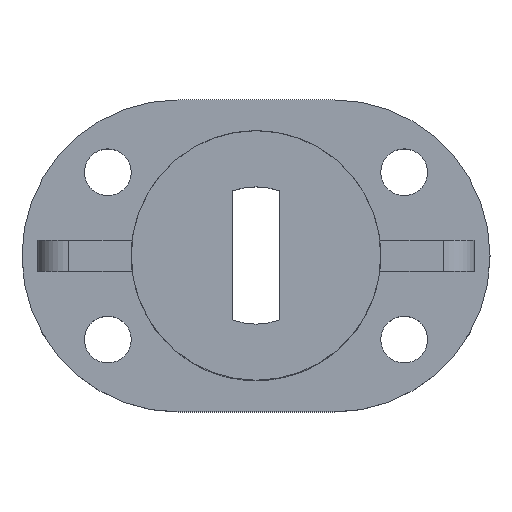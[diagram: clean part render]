
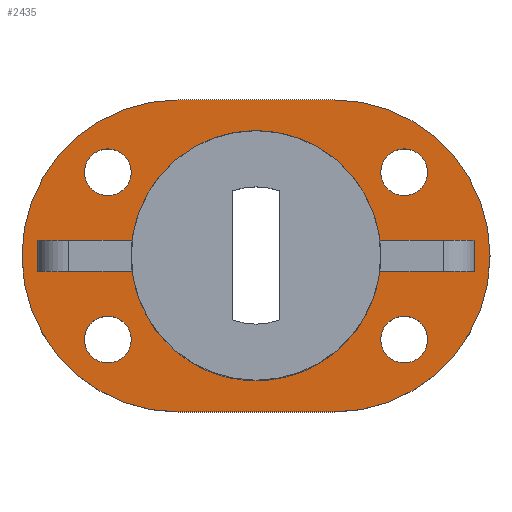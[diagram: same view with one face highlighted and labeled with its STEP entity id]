
A CAD part, top view. The second image highlights one B-rep face of the part: STEP entity #2435.
In plain terms, the highlighted planar face has unit normal (0, 0, 1).
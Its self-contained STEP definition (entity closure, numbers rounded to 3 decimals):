
#59=CARTESIAN_POINT('',(-39.686,-5.,0.));
#60=VERTEX_POINT('',#59);
#67=CARTESIAN_POINT('',(39.686,-5.,0.));
#68=VERTEX_POINT('',#67);
#69=CARTESIAN_POINT('',(0.,0.,0.));
#70=DIRECTION('',(0.,0.,1.));
#71=DIRECTION('',(-1.,0.,0.));
#72=AXIS2_PLACEMENT_3D('',#69,#70,#71);
#73=CIRCLE('',#72,40.);
#74=EDGE_CURVE('',#60,#68,#73,.T.);
#93=CARTESIAN_POINT('',(39.686,5.,0.));
#94=VERTEX_POINT('',#93);
#101=CARTESIAN_POINT('',(-39.686,5.,0.));
#102=VERTEX_POINT('',#101);
#103=CARTESIAN_POINT('',(0.,0.,0.));
#104=DIRECTION('',(0.,0.,1.));
#105=DIRECTION('',(-1.,0.,0.));
#106=AXIS2_PLACEMENT_3D('',#103,#104,#105);
#107=CIRCLE('',#106,40.);
#108=EDGE_CURVE('',#94,#102,#107,.T.);
#1959=CARTESIAN_POINT('',(-75.,-0.,0.));
#1960=VERTEX_POINT('',#1959);
#1961=CARTESIAN_POINT('',(-25.,-50.,0.));
#1962=VERTEX_POINT('',#1961);
#1963=CARTESIAN_POINT('',(-25.,-0.,0.));
#1964=DIRECTION('',(0.,0.,1.));
#1965=DIRECTION('',(-1.,0.,0.));
#1966=AXIS2_PLACEMENT_3D('',#1963,#1964,#1965);
#1967=CIRCLE('',#1966,50.);
#1968=EDGE_CURVE('',#1960,#1962,#1967,.T.);
#1970=CARTESIAN_POINT('',(-25.,50.,0.));
#1971=VERTEX_POINT('',#1970);
#1972=CARTESIAN_POINT('',(-25.,0.,0.));
#1973=DIRECTION('',(0.,0.,1.));
#1974=DIRECTION('',(-1.,0.,0.));
#1975=AXIS2_PLACEMENT_3D('',#1972,#1973,#1974);
#1976=CIRCLE('',#1975,50.);
#1977=EDGE_CURVE('',#1971,#1960,#1976,.T.);
#2019=CARTESIAN_POINT('',(25.,-50.,0.));
#2020=VERTEX_POINT('',#2019);
#2021=CARTESIAN_POINT('',(-25.,-50.,0.));
#2022=DIRECTION('',(1.,0.,0.));
#2023=VECTOR('',#2022,50.);
#2024=LINE('',#2021,#2023);
#2025=EDGE_CURVE('',#1962,#2020,#2024,.T.);
#2050=CARTESIAN_POINT('',(75.,0.,0.));
#2051=VERTEX_POINT('',#2050);
#2069=CARTESIAN_POINT('',(25.,50.,0.));
#2070=VERTEX_POINT('',#2069);
#2077=CARTESIAN_POINT('',(25.,0.,0.));
#2078=DIRECTION('',(0.,0.,1.));
#2079=DIRECTION('',(-1.,0.,0.));
#2080=AXIS2_PLACEMENT_3D('',#2077,#2078,#2079);
#2081=CIRCLE('',#2080,50.);
#2082=EDGE_CURVE('',#2051,#2070,#2081,.T.);
#2092=CARTESIAN_POINT('',(25.,50.,0.));
#2093=DIRECTION('',(-1.,0.,0.));
#2094=VECTOR('',#2093,50.);
#2095=LINE('',#2092,#2094);
#2096=EDGE_CURVE('',#2070,#1971,#2095,.T.);
#2114=CARTESIAN_POINT('',(-39.998,26.812,0.));
#2115=VERTEX_POINT('',#2114);
#2124=CARTESIAN_POINT('',(-54.998,26.812,0.));
#2125=VERTEX_POINT('',#2124);
#2126=CARTESIAN_POINT('',(-47.498,26.812,0.));
#2127=DIRECTION('',(0.,0.,1.));
#2128=DIRECTION('',(-1.,0.,0.));
#2129=AXIS2_PLACEMENT_3D('',#2126,#2127,#2128);
#2130=CIRCLE('',#2129,7.5);
#2131=EDGE_CURVE('',#2115,#2125,#2130,.T.);
#2133=CARTESIAN_POINT('',(-47.498,26.812,0.));
#2134=DIRECTION('',(0.,0.,1.));
#2135=DIRECTION('',(-1.,0.,0.));
#2136=AXIS2_PLACEMENT_3D('',#2133,#2134,#2135);
#2137=CIRCLE('',#2136,7.5);
#2138=EDGE_CURVE('',#2125,#2115,#2137,.T.);
#2165=CARTESIAN_POINT('',(54.998,26.812,0.));
#2166=VERTEX_POINT('',#2165);
#2175=CARTESIAN_POINT('',(39.998,26.812,0.));
#2176=VERTEX_POINT('',#2175);
#2177=CARTESIAN_POINT('',(47.498,26.812,0.));
#2178=DIRECTION('',(0.,0.,1.));
#2179=DIRECTION('',(-1.,0.,0.));
#2180=AXIS2_PLACEMENT_3D('',#2177,#2178,#2179);
#2181=CIRCLE('',#2180,7.5);
#2182=EDGE_CURVE('',#2166,#2176,#2181,.T.);
#2184=CARTESIAN_POINT('',(47.498,26.812,0.));
#2185=DIRECTION('',(0.,0.,1.));
#2186=DIRECTION('',(-1.,0.,0.));
#2187=AXIS2_PLACEMENT_3D('',#2184,#2185,#2186);
#2188=CIRCLE('',#2187,7.5);
#2189=EDGE_CURVE('',#2176,#2166,#2188,.T.);
#2216=CARTESIAN_POINT('',(54.998,-26.812,0.));
#2217=VERTEX_POINT('',#2216);
#2226=CARTESIAN_POINT('',(39.998,-26.812,0.));
#2227=VERTEX_POINT('',#2226);
#2228=CARTESIAN_POINT('',(47.498,-26.812,0.));
#2229=DIRECTION('',(0.,0.,1.));
#2230=DIRECTION('',(-1.,0.,0.));
#2231=AXIS2_PLACEMENT_3D('',#2228,#2229,#2230);
#2232=CIRCLE('',#2231,7.5);
#2233=EDGE_CURVE('',#2217,#2227,#2232,.T.);
#2235=CARTESIAN_POINT('',(47.498,-26.812,0.));
#2236=DIRECTION('',(0.,0.,1.));
#2237=DIRECTION('',(-1.,0.,0.));
#2238=AXIS2_PLACEMENT_3D('',#2235,#2236,#2237);
#2239=CIRCLE('',#2238,7.5);
#2240=EDGE_CURVE('',#2227,#2217,#2239,.T.);
#2267=CARTESIAN_POINT('',(-39.998,-26.812,0.));
#2268=VERTEX_POINT('',#2267);
#2277=CARTESIAN_POINT('',(-54.998,-26.812,0.));
#2278=VERTEX_POINT('',#2277);
#2279=CARTESIAN_POINT('',(-47.498,-26.812,0.));
#2280=DIRECTION('',(0.,0.,1.));
#2281=DIRECTION('',(-1.,0.,0.));
#2282=AXIS2_PLACEMENT_3D('',#2279,#2280,#2281);
#2283=CIRCLE('',#2282,7.5);
#2284=EDGE_CURVE('',#2268,#2278,#2283,.T.);
#2286=CARTESIAN_POINT('',(-47.498,-26.812,0.));
#2287=DIRECTION('',(0.,0.,1.));
#2288=DIRECTION('',(-1.,0.,0.));
#2289=AXIS2_PLACEMENT_3D('',#2286,#2287,#2288);
#2290=CIRCLE('',#2289,7.5);
#2291=EDGE_CURVE('',#2278,#2268,#2290,.T.);
#2352=CARTESIAN_POINT('',(0.,0.,0.));
#2353=DIRECTION('',(0.,0.,1.));
#2354=DIRECTION('',(-1.,0.,0.));
#2355=AXIS2_PLACEMENT_3D('',#2352,#2353,#2354);
#2356=PLANE('',#2355);
#2357=CARTESIAN_POINT('',(70.,-5.,0.));
#2358=VERTEX_POINT('',#2357);
#2359=CARTESIAN_POINT('',(39.686,-5.,0.));
#2360=DIRECTION('',(1.,0.,-0.));
#2361=VECTOR('',#2360,30.314);
#2362=LINE('',#2359,#2361);
#2363=EDGE_CURVE('',#68,#2358,#2362,.T.);
#2364=ORIENTED_EDGE('',*,*,#2363,.F.);
#2365=ORIENTED_EDGE('',*,*,#74,.F.);
#2366=CARTESIAN_POINT('',(-70.,-5.,0.));
#2367=VERTEX_POINT('',#2366);
#2368=CARTESIAN_POINT('',(-70.,-5.,0.));
#2369=DIRECTION('',(1.,0.,-0.));
#2370=VECTOR('',#2369,30.314);
#2371=LINE('',#2368,#2370);
#2372=EDGE_CURVE('',#2367,#60,#2371,.T.);
#2373=ORIENTED_EDGE('',*,*,#2372,.F.);
#2374=CARTESIAN_POINT('',(-70.,5.,0.));
#2375=VERTEX_POINT('',#2374);
#2376=CARTESIAN_POINT('',(-70.,5.,0.));
#2377=DIRECTION('',(0.,-1.,0.));
#2378=VECTOR('',#2377,10.);
#2379=LINE('',#2376,#2378);
#2380=EDGE_CURVE('',#2375,#2367,#2379,.T.);
#2381=ORIENTED_EDGE('',*,*,#2380,.F.);
#2382=CARTESIAN_POINT('',(-70.,5.,0.));
#2383=DIRECTION('',(1.,0.,-0.));
#2384=VECTOR('',#2383,30.314);
#2385=LINE('',#2382,#2384);
#2386=EDGE_CURVE('',#2375,#102,#2385,.T.);
#2387=ORIENTED_EDGE('',*,*,#2386,.T.);
#2388=ORIENTED_EDGE('',*,*,#108,.F.);
#2389=CARTESIAN_POINT('',(70.,5.,0.));
#2390=VERTEX_POINT('',#2389);
#2391=CARTESIAN_POINT('',(39.686,5.,0.));
#2392=DIRECTION('',(1.,0.,-0.));
#2393=VECTOR('',#2392,30.314);
#2394=LINE('',#2391,#2393);
#2395=EDGE_CURVE('',#94,#2390,#2394,.T.);
#2396=ORIENTED_EDGE('',*,*,#2395,.T.);
#2397=CARTESIAN_POINT('',(70.,5.,0.));
#2398=DIRECTION('',(0.,-1.,0.));
#2399=VECTOR('',#2398,10.);
#2400=LINE('',#2397,#2399);
#2401=EDGE_CURVE('',#2390,#2358,#2400,.T.);
#2402=ORIENTED_EDGE('',*,*,#2401,.T.);
#2403=EDGE_LOOP('',(#2364,#2365,#2373,#2381,#2387,#2388,#2396,#2402));
#2404=FACE_BOUND('',#2403,.T.);
#2405=ORIENTED_EDGE('',*,*,#1968,.T.);
#2406=ORIENTED_EDGE('',*,*,#2025,.T.);
#2407=CARTESIAN_POINT('',(25.,0.,0.));
#2408=DIRECTION('',(0.,0.,1.));
#2409=DIRECTION('',(-1.,0.,0.));
#2410=AXIS2_PLACEMENT_3D('',#2407,#2408,#2409);
#2411=CIRCLE('',#2410,50.);
#2412=EDGE_CURVE('',#2020,#2051,#2411,.T.);
#2413=ORIENTED_EDGE('',*,*,#2412,.T.);
#2414=ORIENTED_EDGE('',*,*,#2082,.T.);
#2415=ORIENTED_EDGE('',*,*,#2096,.T.);
#2416=ORIENTED_EDGE('',*,*,#1977,.T.);
#2417=EDGE_LOOP('',(#2405,#2406,#2413,#2414,#2415,#2416));
#2418=FACE_BOUND('',#2417,.T.);
#2419=ORIENTED_EDGE('',*,*,#2233,.F.);
#2420=ORIENTED_EDGE('',*,*,#2240,.F.);
#2421=EDGE_LOOP('',(#2419,#2420));
#2422=FACE_BOUND('',#2421,.T.);
#2423=ORIENTED_EDGE('',*,*,#2182,.F.);
#2424=ORIENTED_EDGE('',*,*,#2189,.F.);
#2425=EDGE_LOOP('',(#2423,#2424));
#2426=FACE_BOUND('',#2425,.T.);
#2427=ORIENTED_EDGE('',*,*,#2131,.F.);
#2428=ORIENTED_EDGE('',*,*,#2138,.F.);
#2429=EDGE_LOOP('',(#2427,#2428));
#2430=FACE_BOUND('',#2429,.T.);
#2431=ORIENTED_EDGE('',*,*,#2284,.F.);
#2432=ORIENTED_EDGE('',*,*,#2291,.F.);
#2433=EDGE_LOOP('',(#2431,#2432));
#2434=FACE_BOUND('',#2433,.T.);
#2435=ADVANCED_FACE('',(#2404,#2418,#2422,#2426,#2430,#2434),#2356,.T.);
